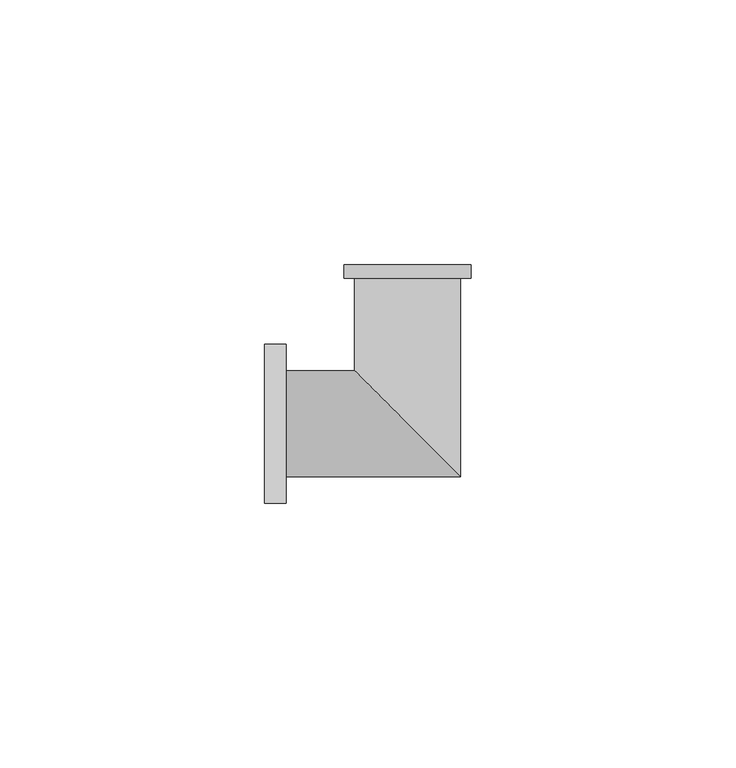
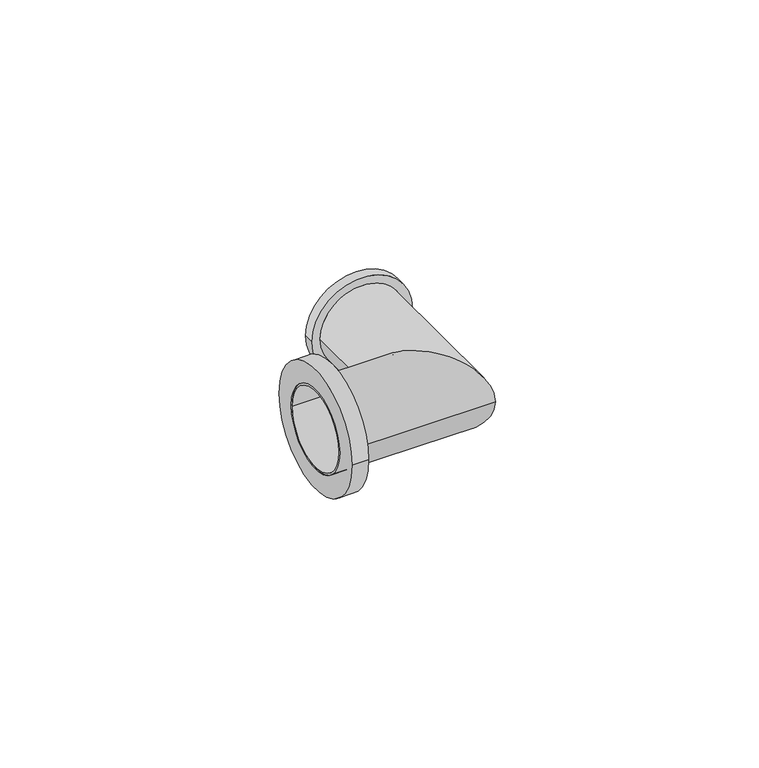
"""IFC4 building model written with IfcOpenShell, lengths in millimetres: pipe fitting geometry, БИР ПЕКС_НПР_Угольник_Резьба_Внутренняя : Угольник с внутренней резьбой."""

from ifc_helpers import new_model, si_unit, point, frame, origin, origin_2d, place, context, project, spatial, polyline, circle_curve, ellipse_curve, trimmed, segment, composite_curve, outline, extrude, source, transform, mapped, element, save
from ifc_brep_helpers import plane_surface, cylinder_surface, revolved_surface, advanced_brep


def pipe_fitting_16398a61(model_context):
    return source(origin(), model_context, "Body", "SolidModel", [
        extrude(outline(composite_curve([segment(trimmed(circle_curve(origin_2d(), 15.0), [point((-15.0, 0.0))], [point((15.0, 0.0))], False, "CARTESIAN"), True, "CONTINUOUS"), segment(trimmed(circle_curve(origin_2d(), 15.0), [point((15.0, 0.0))], [point((-15.0, 0.0))], False, "CARTESIAN"), True, "CONTINUOUS")], self_intersect=False), holes=[composite_curve([segment(trimmed(circle_curve(origin_2d(), 10.0), [point((-10.0, 0.0))], [point((10.0, 0.0))], True, "CARTESIAN"), True, "CONTINUOUS"), segment(trimmed(circle_curve(origin_2d(), 10.0), [point((10.0, 0.0))], [point((-10.0, 0.0))], True, "CARTESIAN"), True, "CONTINUOUS")], self_intersect=False)]), frame((-27.0, 0.0, 0.0), z_axis=(1.0, 0.0, 0.0), x_axis=(0.0, 1.0, 0.0)), (0.0, 0.0, 1.0), 4.0),
        advanced_brep(
        [(-27.0, -10.0, 0.0), (-27.0, 10.0, 0.0), (-27.0, -9.5, 0.0), (-27.0, 9.5, 0.0), (10.0, -10.0, 0.0), (-10.0, 10.0, 0.0), (-12.0, 30.0, 0.0), (12.0, 30.0, 0.0), (9.5, 30.0, 0.0), (-9.5, 30.0, 0.0), (10.0, 27.5, 0.0), (-10.0, 27.5, 0.0), (-12.0, 27.5, 0.0), (12.0, 27.5, 0.0), (9.5, -9.5, 0.0), (-9.5, 9.5, 0.0)],
        [
            (0, 1, circle_curve(frame((-27.0, 0.0, 0.0), z_axis=(-1.0, 0.0, 0.0), x_axis=(0.0, 1.0, 0.0)), 10.0)),
            (1, 0, circle_curve(frame((-27.0, 0.0, 0.0), z_axis=(-1.0, 0.0, 0.0), x_axis=(0.0, 1.0, 0.0)), 10.0)),
            (2, 3, circle_curve(frame((-27.0, 0.0, 0.0), z_axis=(1.0, 0.0, 0.0), x_axis=(0.0, 1.0, 0.0)), 9.5)),
            (3, 2, circle_curve(frame((-27.0, 0.0, 0.0), z_axis=(1.0, 0.0, 0.0), x_axis=(0.0, 1.0, 0.0)), 9.5)),
            (0, 4),
            (4, 5, ellipse_curve(frame((0.0, 0.0, 0.0), z_axis=(-0.7071067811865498, -0.7071067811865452, 0.0), x_axis=(-0.7071067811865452, 0.7071067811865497, 0.0)), 14.1421356, 10.0)),
            (5, 1),
            (5, 4, ellipse_curve(frame((0.0, 0.0, 0.0), z_axis=(-0.7071067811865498, -0.7071067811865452, 0.0), x_axis=(-0.7071067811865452, 0.7071067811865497, 0.0)), 14.1421356, 10.0)),
            (6, 7, circle_curve(frame((0.0, 30.0, 0.0), z_axis=(0.0, 1.0, 0.0), x_axis=(1.0, 0.0, 0.0)), 12.0)),
            (7, 6, circle_curve(frame((0.0, 30.0, 0.0), z_axis=(0.0, 1.0, 0.0), x_axis=(1.0, 0.0, 0.0)), 12.0)),
            (8, 9, circle_curve(frame((0.0, 30.0, 0.0), z_axis=(0.0, -1.0, 0.0), x_axis=(-1.0, 0.0, 0.0)), 9.5)),
            (9, 8, circle_curve(frame((0.0, 30.0, 0.0), z_axis=(0.0, -1.0, 0.0), x_axis=(-1.0, 0.0, 0.0)), 9.5)),
            (4, 10),
            (10, 11, circle_curve(frame((0.0, 27.5, 0.0), z_axis=(0.0, -1.0, 0.0), x_axis=(-1.0, 0.0, 0.0)), 10.0)),
            (11, 5),
            (11, 10, circle_curve(frame((0.0, 27.5, 0.0), z_axis=(0.0, -1.0, 0.0), x_axis=(-1.0, 0.0, 0.0)), 10.0)),
            (12, 13, circle_curve(frame((0.0, 27.5, 0.0), z_axis=(0.0, -1.0, 0.0), x_axis=(1.0, 0.0, 0.0)), 12.0)),
            (13, 12, circle_curve(frame((0.0, 27.5, 0.0), z_axis=(0.0, -1.0, 0.0), x_axis=(1.0, 0.0, 0.0)), 12.0)),
            (12, 6),
            (7, 13),
            (2, 14),
            (14, 15, ellipse_curve(frame((0.0, 0.0, 0.0), z_axis=(0.7071067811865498, 0.7071067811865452, 0.0), x_axis=(0.7071067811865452, -0.7071067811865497, 0.0)), 13.4350288, 9.5)),
            (15, 3),
            (15, 14, ellipse_curve(frame((0.0, 0.0, 0.0), z_axis=(0.7071067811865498, 0.7071067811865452, 0.0), x_axis=(0.7071067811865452, -0.7071067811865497, 0.0)), 13.4350288, 9.5)),
            (9, 15),
            (14, 8),
        ],
        [
            plane_surface(frame((-27.0, 0.0, 0.0), z_axis=(-1.0, 0.0, 0.0), x_axis=(0.0, 0.0, 1.0))),
            cylinder_surface(frame((-27.0, 0.0, 0.0), z_axis=(-1.0, 0.0, 0.0), x_axis=(0.0, 1.0, 0.0)), 10.0),
            plane_surface(frame((0.0, 30.0, 0.0), z_axis=(0.0, 1.0, 0.0), x_axis=(0.0, 0.0, 1.0))),
            cylinder_surface(frame((0.0, 0.0, 0.0), z_axis=(0.0, -1.0, 0.0), x_axis=(-1.0, 0.0, 0.0)), 10.0),
            plane_surface(frame((12.0, 27.5, 0.0), z_axis=(0.0, -1.0, 0.0), x_axis=(0.0, 0.0, 1.0))),
            cylinder_surface(frame((0.0, 30.0, 0.0), z_axis=(0.0, -1.0, 0.0), x_axis=(1.0, 0.0, 0.0)), 12.0),
            revolved_surface(polyline([(9.5, 9.5, 0.0), (-27.0, 9.5, 0.0)]), (-27.0, 0.0, 0.0), (1.0, 0.0, 0.0)),
            revolved_surface(polyline([(-9.5, 30.0, 0.0), (-9.5, -9.5, 0.0)]), (0.0, 0.0, 0.0), (0.0, 1.0, 0.0)),
        ],
        [
            (0, [[1, 2], [3, 4]]),
            (1, [[-1, 5, 6, 7]]),
            (1, [[-2, -7, 8, -5]]),
            (2, [[9, 10], [11, 12]]),
            (3, [[-6, 13, 14, 15]]),
            (3, [[-8, -15, 16, -13]]),
            (4, [[17, 18], [-14, -16]]),
            (5, [[-17, 19, -10, 20]]),
            (5, [[-18, -20, -9, -19]]),
            (6, [[-3, 21, 22, 23]]),
            (6, [[-4, -23, 24, -21]]),
            (7, [[-12, 25, -22, 26]]),
            (7, [[-11, -26, -24, -25]]),
        ],
    ),
    ])


if __name__ == "__main__":
    model = new_model("IFC4")
    model_context = context("Model", 3, world=origin())
    ifc_project = project(units=[si_unit("LENGTHUNIT", "METRE", prefix="MILLI")], contexts=[model_context])
    site = spatial("IfcSite", under=ifc_project)
    building = spatial("IfcBuilding", under=site)
    placement = place(None, origin())
    pipe_fitting_shape = pipe_fitting_16398a61(model_context)
    element("IfcPipeFitting", 1, ObjectType="БИР ПЕКС_НПР_Угольник_Резьба_Внутренняя : Угольник с внутренней резьбой", at=placement, inside=building, context=model_context, shape_type="MappedRepresentation", body=[
        mapped(pipe_fitting_shape, transform((0.0, 0.0, 0.0), x_axis=(1.0, 0.0, 0.0), y_axis=(0.0, 1.0, 0.0), z_axis=(0.0, 0.0, 1.0))),
    ])
    save(model, "model.ifc")
